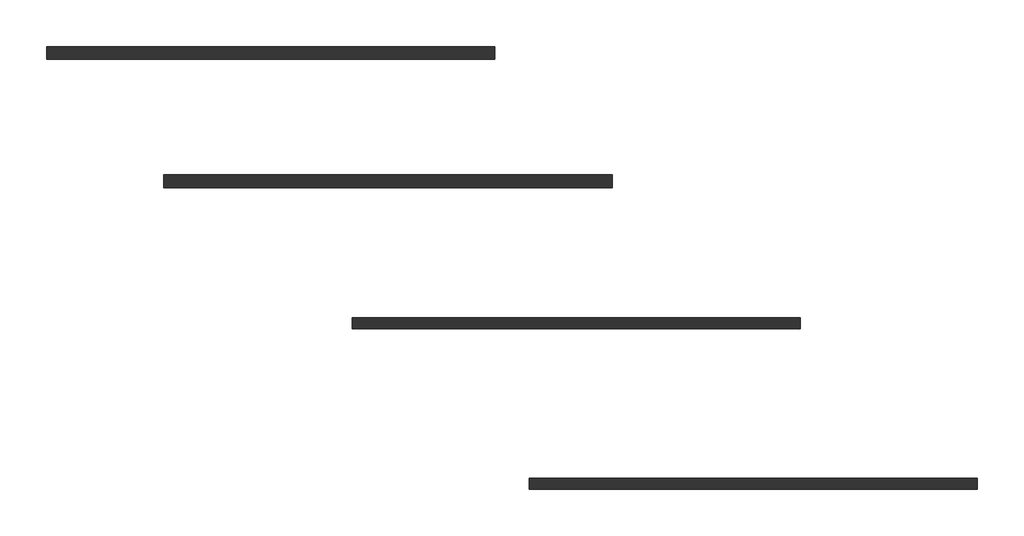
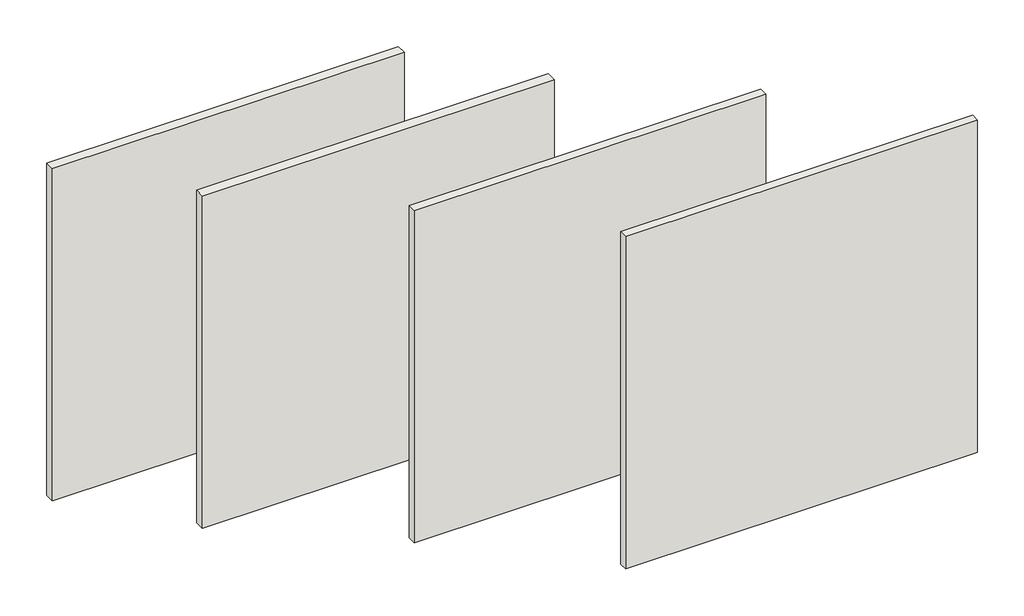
# One storey: 4 walls.
"""IFC4 building model written with IfcOpenShell, lengths in millimetres."""

from ifc_helpers import new_model, si_unit, origin, origin_with_axes, place, context, project, spatial, polyline, outline, extrude, element, save

model = new_model("IFC4")

# Units and contexts
model_context = context("Model", 3, world=origin())
ifc_project = project(units=[si_unit("LENGTHUNIT", "METRE", prefix="MILLI")], contexts=[model_context])

# Site, building, storey
site = spatial("IfcSite", under=ifc_project)
building = spatial("IfcBuilding", under=site)
storey = spatial("IfcBuildingStorey", under=building, Name="Уровень 1", Elevation=0.0)

# Walls
placement = place(None, origin())
element("IfcWall", 1, ObjectType="Облицовка КНАУФ M682 Применение внутри здания ПП60/27 ПН28х27 с двуслойной облицовкой ГВЛ 12.5", at=placement, inside=storey, context=model_context, shape_type="SweptSolid", body=[
    extrude(outline(polyline([(2427.4853756, 1193.8411327), (-572.5146244, 1193.8411327), (-572.5146244, 1278.8411327), (2427.4853756, 1278.8411327), (2427.4853756, 1193.8411327)])), origin_with_axes(), (0.0, 0.0, 1.0), 3000.0),
])
element("IfcWall", 2, ObjectType="Облицовка КНАУФ M682 Применение внутри здания ПП60/27 ПН28х27 с двуслойной облицовкой ГВЛВ 12.5", at=placement, inside=storey, context=model_context, shape_type="SweptSolid", body=[
    extrude(outline(polyline([(3212.0706734, 335.121791), (212.0706734, 335.121791), (212.0706734, 420.121791), (3212.0706734, 420.121791), (3212.0706734, 335.121791)])), origin_with_axes(), (0.0, 0.0, 1.0), 3000.0),
])
element("IfcWall", 3, ObjectType="Облицовка КНАУФ M682 Применение внутри здания ПП60/27 ПН28х27 с однослойной облицовкой ГВЛ 12.5", at=placement, inside=storey, context=model_context, shape_type="SweptSolid", body=[
    extrude(outline(polyline([(4472.3494194, -610.0151055), (1472.3494194, -610.0151055), (1472.3494194, -537.5151055), (4472.3494194, -537.5151055), (4472.3494194, -610.0151055)])), origin_with_axes(), (0.0, 0.0, 1.0), 3000.0),
])
element("IfcWall", 4, ObjectType="Облицовка КНАУФ M682 Применение внутри здания ПП60/27 ПН28х27 с однослойной облицовкой ГВЛВ 12.5", at=placement, inside=storey, context=model_context, shape_type="SweptSolid", body=[
    extrude(outline(polyline([(5657.490223, -1682.5151055), (2657.490223, -1682.5151055), (2657.490223, -1610.0151055), (5657.490223, -1610.0151055), (5657.490223, -1682.5151055)])), origin_with_axes(), (0.0, 0.0, 1.0), 3000.0),
])

save(model, "model.ifc")
